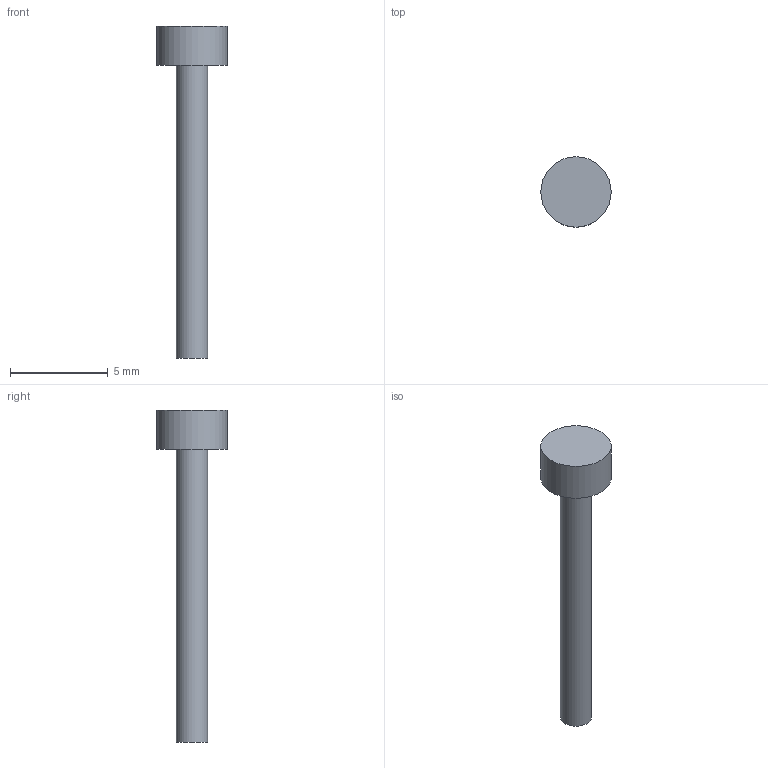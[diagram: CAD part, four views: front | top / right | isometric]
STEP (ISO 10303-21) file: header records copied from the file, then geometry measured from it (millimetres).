
FILE_DESCRIPTION(('Open CASCADE Model'),'2;1');
FILE_NAME('Open CASCADE Shape Model','2026-09-24T19:52:59',('Author'),( 'Open CASCADE'),'Open CASCADE STEP processor 7.8','Open CASCADE 7.8' ,'Unknown');
FILE_SCHEMA(('AUTOMOTIVE_DESIGN { 1 0 10303 214 1 1 1 1 }'));
Length unit declared in the file: millimetre
Products named in the file (1): Open CASCADE STEP translator 7.8 28
Bounding box: 3.6 x 3.6 x 17 mm (x, y, z)
Volume: 50.5 mm3; surface area: 118.4 mm2
Topology: 1 solids, 1 shells, 5 faces, 6 edges, 4 vertices
Faces by surface type: plane 3, cylinder 2
Full cylindrical faces by diameter (mm): 1.6 x1, 3.6 x1
Entity records: 192 total; most frequent: DIRECTION 34, CARTESIAN_POINT 28, ORIENTED_EDGE 12, PCURVE 12, DEFINITIONAL_REPRESENTATION 12, AXIS2_PLACEMENT_3D 10, LINE 10, VECTOR 10
